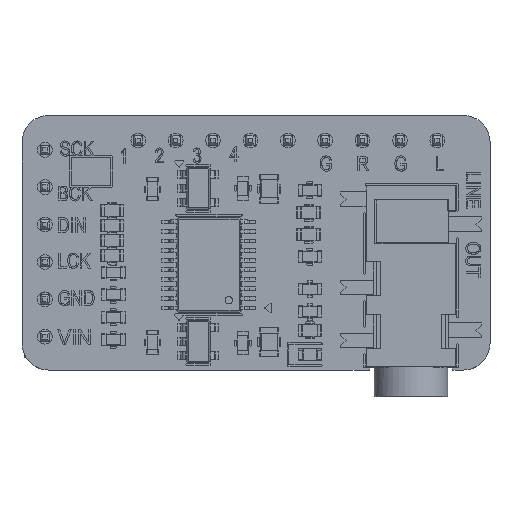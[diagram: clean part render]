
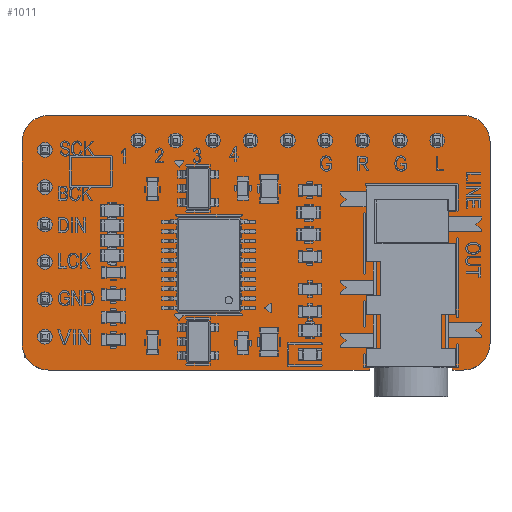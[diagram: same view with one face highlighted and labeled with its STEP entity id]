
A CAD part, top view. The second image highlights one B-rep face of the part: STEP entity #1011.
In plain terms, the highlighted planar face has unit normal (0, 0, 1).
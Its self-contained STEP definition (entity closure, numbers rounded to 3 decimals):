
#75 = VERTEX_POINT('',#76);
#76 = CARTESIAN_POINT('',(164.87,-89.635,0.));
#93 = VERTEX_POINT('',#94);
#94 = CARTESIAN_POINT('',(164.87,-103.335,0.));
#100 = EDGE_CURVE('',#75,#93,#101,.T.);
#101 = LINE('',#102,#103);
#102 = CARTESIAN_POINT('',(164.87,-89.635,0.));
#103 = VECTOR('',#104,1.);
#104 = DIRECTION('',(0.,-1.,0.));
#115 = VERTEX_POINT('',#116);
#116 = CARTESIAN_POINT('',(163.07,-87.835,0.));
#132 = EDGE_CURVE('',#115,#75,#133,.T.);
#133 = CIRCLE('',#134,1.8);
#134 = AXIS2_PLACEMENT_3D('',#135,#136,#137);
#135 = CARTESIAN_POINT('',(163.07,-89.635,0.));
#136 = DIRECTION('',(0.,0.,-1.));
#137 = DIRECTION('',(0.,1.,0.));
#158 = VERTEX_POINT('',#159);
#159 = CARTESIAN_POINT('',(163.07,-105.135,0.));
#165 = EDGE_CURVE('',#93,#158,#166,.T.);
#166 = CIRCLE('',#167,1.8);
#167 = AXIS2_PLACEMENT_3D('',#168,#169,#170);
#168 = CARTESIAN_POINT('',(163.07,-103.335,0.));
#169 = DIRECTION('',(0.,0.,-1.));
#170 = DIRECTION('',(1.,0.,0.));
#181 = VERTEX_POINT('',#182);
#182 = CARTESIAN_POINT('',(134.87,-87.835,0.));
#197 = EDGE_CURVE('',#181,#115,#198,.T.);
#198 = LINE('',#199,#200);
#199 = CARTESIAN_POINT('',(134.87,-87.835,0.));
#200 = VECTOR('',#201,1.);
#201 = DIRECTION('',(1.,0.,0.));
#221 = VERTEX_POINT('',#222);
#222 = CARTESIAN_POINT('',(162.35,-105.135,0.));
#228 = EDGE_CURVE('',#158,#221,#229,.T.);
#229 = LINE('',#230,#231);
#230 = CARTESIAN_POINT('',(163.07,-105.135,0.));
#231 = VECTOR('',#232,1.);
#232 = DIRECTION('',(-1.,0.,0.));
#243 = VERTEX_POINT('',#244);
#244 = CARTESIAN_POINT('',(133.07,-89.635,0.));
#260 = EDGE_CURVE('',#243,#181,#261,.T.);
#261 = CIRCLE('',#262,1.8);
#262 = AXIS2_PLACEMENT_3D('',#263,#264,#265);
#263 = CARTESIAN_POINT('',(134.87,-89.635,0.));
#264 = DIRECTION('',(0.,0.,-1.));
#265 = DIRECTION('',(-1.,0.,0.));
#285 = VERTEX_POINT('',#286);
#286 = CARTESIAN_POINT('',(162.,-104.135,0.));
#292 = EDGE_CURVE('',#221,#285,#293,.T.);
#293 = LINE('',#294,#295);
#294 = CARTESIAN_POINT('',(162.35,-105.135,0.));
#295 = VECTOR('',#296,1.);
#296 = DIRECTION('',(-0.33,0.944,0.));
#307 = VERTEX_POINT('',#308);
#308 = CARTESIAN_POINT('',(133.07,-103.335,0.));
#323 = EDGE_CURVE('',#307,#243,#324,.T.);
#324 = LINE('',#325,#326);
#325 = CARTESIAN_POINT('',(133.07,-103.335,0.));
#326 = VECTOR('',#327,1.);
#327 = DIRECTION('',(0.,1.,0.));
#347 = VERTEX_POINT('',#348);
#348 = CARTESIAN_POINT('',(157.,-104.135,0.));
#354 = EDGE_CURVE('',#285,#347,#355,.T.);
#355 = LINE('',#356,#357);
#356 = CARTESIAN_POINT('',(162.,-104.135,0.));
#357 = VECTOR('',#358,1.);
#358 = DIRECTION('',(-1.,0.,0.));
#369 = VERTEX_POINT('',#370);
#370 = CARTESIAN_POINT('',(134.87,-105.135,0.));
#386 = EDGE_CURVE('',#369,#307,#387,.T.);
#387 = CIRCLE('',#388,1.8);
#388 = AXIS2_PLACEMENT_3D('',#389,#390,#391);
#389 = CARTESIAN_POINT('',(134.87,-103.335,0.));
#390 = DIRECTION('',(0.,0.,-1.));
#391 = DIRECTION('',(0.,-1.,-0.));
#411 = VERTEX_POINT('',#412);
#412 = CARTESIAN_POINT('',(156.65,-105.135,0.));
#418 = EDGE_CURVE('',#347,#411,#419,.T.);
#419 = LINE('',#420,#421);
#420 = CARTESIAN_POINT('',(157.,-104.135,0.));
#421 = VECTOR('',#422,1.);
#422 = DIRECTION('',(-0.33,-0.944,0.));
#440 = EDGE_CURVE('',#411,#369,#441,.T.);
#441 = LINE('',#442,#443);
#442 = CARTESIAN_POINT('',(156.65,-105.135,0.));
#443 = VECTOR('',#444,1.);
#444 = DIRECTION('',(-1.,0.,0.));
#455 = VERTEX_POINT('',#456);
#456 = CARTESIAN_POINT('',(160.05,-101.935,0.));
#472 = EDGE_CURVE('',#455,#455,#473,.T.);
#473 = CIRCLE('',#474,0.55);
#474 = AXIS2_PLACEMENT_3D('',#475,#476,#477);
#475 = CARTESIAN_POINT('',(159.5,-101.935,0.));
#476 = DIRECTION('',(0.,0.,1.));
#477 = DIRECTION('',(1.,0.,-0.));
#488 = VERTEX_POINT('',#489);
#489 = CARTESIAN_POINT('',(135.12,-102.87,0.));
#505 = EDGE_CURVE('',#488,#488,#506,.T.);
#506 = CIRCLE('',#507,0.5);
#507 = AXIS2_PLACEMENT_3D('',#508,#509,#510);
#508 = CARTESIAN_POINT('',(134.62,-102.87,0.));
#509 = DIRECTION('',(0.,0.,1.));
#510 = DIRECTION('',(1.,0.,-0.));
#521 = VERTEX_POINT('',#522);
#522 = CARTESIAN_POINT('',(135.12,-100.33,0.));
#538 = EDGE_CURVE('',#521,#521,#539,.T.);
#539 = CIRCLE('',#540,0.5);
#540 = AXIS2_PLACEMENT_3D('',#541,#542,#543);
#541 = CARTESIAN_POINT('',(134.62,-100.33,0.));
#542 = DIRECTION('',(0.,0.,1.));
#543 = DIRECTION('',(1.,0.,-0.));
#554 = VERTEX_POINT('',#555);
#555 = CARTESIAN_POINT('',(135.12,-97.79,0.));
#571 = EDGE_CURVE('',#554,#554,#572,.T.);
#572 = CIRCLE('',#573,0.5);
#573 = AXIS2_PLACEMENT_3D('',#574,#575,#576);
#574 = CARTESIAN_POINT('',(134.62,-97.79,0.));
#575 = DIRECTION('',(0.,0.,1.));
#576 = DIRECTION('',(1.,0.,-0.));
#587 = VERTEX_POINT('',#588);
#588 = CARTESIAN_POINT('',(160.05,-95.935,0.));
#604 = EDGE_CURVE('',#587,#587,#605,.T.);
#605 = CIRCLE('',#606,0.55);
#606 = AXIS2_PLACEMENT_3D('',#607,#608,#609);
#607 = CARTESIAN_POINT('',(159.5,-95.935,0.));
#608 = DIRECTION('',(0.,0.,1.));
#609 = DIRECTION('',(1.,0.,-0.));
#620 = VERTEX_POINT('',#621);
#621 = CARTESIAN_POINT('',(161.79,-89.535,0.));
#637 = EDGE_CURVE('',#620,#620,#638,.T.);
#638 = CIRCLE('',#639,0.5);
#639 = AXIS2_PLACEMENT_3D('',#640,#641,#642);
#640 = CARTESIAN_POINT('',(161.29,-89.535,0.));
#641 = DIRECTION('',(0.,0.,1.));
#642 = DIRECTION('',(1.,0.,-0.));
#653 = VERTEX_POINT('',#654);
#654 = CARTESIAN_POINT('',(159.25,-89.535,0.));
#670 = EDGE_CURVE('',#653,#653,#671,.T.);
#671 = CIRCLE('',#672,0.5);
#672 = AXIS2_PLACEMENT_3D('',#673,#674,#675);
#673 = CARTESIAN_POINT('',(158.75,-89.535,0.));
#674 = DIRECTION('',(0.,0.,1.));
#675 = DIRECTION('',(1.,0.,-0.));
#686 = VERTEX_POINT('',#687);
#687 = CARTESIAN_POINT('',(156.71,-89.535,0.));
#703 = EDGE_CURVE('',#686,#686,#704,.T.);
#704 = CIRCLE('',#705,0.5);
#705 = AXIS2_PLACEMENT_3D('',#706,#707,#708);
#706 = CARTESIAN_POINT('',(156.21,-89.535,0.));
#707 = DIRECTION('',(0.,0.,1.));
#708 = DIRECTION('',(1.,0.,-0.));
#719 = VERTEX_POINT('',#720);
#720 = CARTESIAN_POINT('',(154.17,-89.535,0.));
#736 = EDGE_CURVE('',#719,#719,#737,.T.);
#737 = CIRCLE('',#738,0.5);
#738 = AXIS2_PLACEMENT_3D('',#739,#740,#741);
#739 = CARTESIAN_POINT('',(153.67,-89.535,0.));
#740 = DIRECTION('',(0.,0.,1.));
#741 = DIRECTION('',(1.,0.,-0.));
#752 = VERTEX_POINT('',#753);
#753 = CARTESIAN_POINT('',(151.63,-89.535,0.));
#769 = EDGE_CURVE('',#752,#752,#770,.T.);
#770 = CIRCLE('',#771,0.5);
#771 = AXIS2_PLACEMENT_3D('',#772,#773,#774);
#772 = CARTESIAN_POINT('',(151.13,-89.535,0.));
#773 = DIRECTION('',(0.,0.,1.));
#774 = DIRECTION('',(1.,0.,-0.));
#785 = VERTEX_POINT('',#786);
#786 = CARTESIAN_POINT('',(149.09,-89.535,0.));
#802 = EDGE_CURVE('',#785,#785,#803,.T.);
#803 = CIRCLE('',#804,0.5);
#804 = AXIS2_PLACEMENT_3D('',#805,#806,#807);
#805 = CARTESIAN_POINT('',(148.59,-89.535,0.));
#806 = DIRECTION('',(0.,0.,1.));
#807 = DIRECTION('',(1.,0.,-0.));
#818 = VERTEX_POINT('',#819);
#819 = CARTESIAN_POINT('',(135.12,-95.25,0.));
#835 = EDGE_CURVE('',#818,#818,#836,.T.);
#836 = CIRCLE('',#837,0.5);
#837 = AXIS2_PLACEMENT_3D('',#838,#839,#840);
#838 = CARTESIAN_POINT('',(134.62,-95.25,0.));
#839 = DIRECTION('',(0.,0.,1.));
#840 = DIRECTION('',(1.,0.,-0.));
#851 = VERTEX_POINT('',#852);
#852 = CARTESIAN_POINT('',(135.12,-92.71,0.));
#868 = EDGE_CURVE('',#851,#851,#869,.T.);
#869 = CIRCLE('',#870,0.5);
#870 = AXIS2_PLACEMENT_3D('',#871,#872,#873);
#871 = CARTESIAN_POINT('',(134.62,-92.71,0.));
#872 = DIRECTION('',(0.,0.,1.));
#873 = DIRECTION('',(1.,0.,-0.));
#884 = VERTEX_POINT('',#885);
#885 = CARTESIAN_POINT('',(146.55,-89.535,0.));
#901 = EDGE_CURVE('',#884,#884,#902,.T.);
#902 = CIRCLE('',#903,0.5);
#903 = AXIS2_PLACEMENT_3D('',#904,#905,#906);
#904 = CARTESIAN_POINT('',(146.05,-89.535,0.));
#905 = DIRECTION('',(0.,0.,1.));
#906 = DIRECTION('',(1.,0.,-0.));
#917 = VERTEX_POINT('',#918);
#918 = CARTESIAN_POINT('',(144.01,-89.535,0.));
#934 = EDGE_CURVE('',#917,#917,#935,.T.);
#935 = CIRCLE('',#936,0.5);
#936 = AXIS2_PLACEMENT_3D('',#937,#938,#939);
#937 = CARTESIAN_POINT('',(143.51,-89.535,0.));
#938 = DIRECTION('',(0.,0.,1.));
#939 = DIRECTION('',(1.,0.,-0.));
#950 = VERTEX_POINT('',#951);
#951 = CARTESIAN_POINT('',(141.47,-89.535,0.));
#967 = EDGE_CURVE('',#950,#950,#968,.T.);
#968 = CIRCLE('',#969,0.5);
#969 = AXIS2_PLACEMENT_3D('',#970,#971,#972);
#970 = CARTESIAN_POINT('',(140.97,-89.535,0.));
#971 = DIRECTION('',(0.,0.,1.));
#972 = DIRECTION('',(1.,0.,-0.));
#983 = VERTEX_POINT('',#984);
#984 = CARTESIAN_POINT('',(135.12,-90.17,0.));
#1000 = EDGE_CURVE('',#983,#983,#1001,.T.);
#1001 = CIRCLE('',#1002,0.5);
#1002 = AXIS2_PLACEMENT_3D('',#1003,#1004,#1005);
#1003 = CARTESIAN_POINT('',(134.62,-90.17,0.));
#1004 = DIRECTION('',(0.,0.,1.));
#1005 = DIRECTION('',(1.,0.,-0.));
#1011 = ADVANCED_FACE('',(#1012,#1026,#1029,#1032,#1035,#1038,#1041,
    #1044,#1047,#1050,#1053,#1056,#1059,#1062,#1065,#1068,#1071,#1074),
  #1077,.F.);
#1012 = FACE_BOUND('',#1013,.F.);
#1013 = EDGE_LOOP('',(#1014,#1015,#1016,#1017,#1018,#1019,#1020,#1021,
    #1022,#1023,#1024,#1025));
#1014 = ORIENTED_EDGE('',*,*,#100,.T.);
#1015 = ORIENTED_EDGE('',*,*,#165,.T.);
#1016 = ORIENTED_EDGE('',*,*,#228,.T.);
#1017 = ORIENTED_EDGE('',*,*,#292,.T.);
#1018 = ORIENTED_EDGE('',*,*,#354,.T.);
#1019 = ORIENTED_EDGE('',*,*,#418,.T.);
#1020 = ORIENTED_EDGE('',*,*,#440,.T.);
#1021 = ORIENTED_EDGE('',*,*,#386,.T.);
#1022 = ORIENTED_EDGE('',*,*,#323,.T.);
#1023 = ORIENTED_EDGE('',*,*,#260,.T.);
#1024 = ORIENTED_EDGE('',*,*,#197,.T.);
#1025 = ORIENTED_EDGE('',*,*,#132,.T.);
#1026 = FACE_BOUND('',#1027,.F.);
#1027 = EDGE_LOOP('',(#1028));
#1028 = ORIENTED_EDGE('',*,*,#472,.T.);
#1029 = FACE_BOUND('',#1030,.F.);
#1030 = EDGE_LOOP('',(#1031));
#1031 = ORIENTED_EDGE('',*,*,#505,.T.);
#1032 = FACE_BOUND('',#1033,.F.);
#1033 = EDGE_LOOP('',(#1034));
#1034 = ORIENTED_EDGE('',*,*,#538,.T.);
#1035 = FACE_BOUND('',#1036,.F.);
#1036 = EDGE_LOOP('',(#1037));
#1037 = ORIENTED_EDGE('',*,*,#571,.T.);
#1038 = FACE_BOUND('',#1039,.F.);
#1039 = EDGE_LOOP('',(#1040));
#1040 = ORIENTED_EDGE('',*,*,#604,.T.);
#1041 = FACE_BOUND('',#1042,.F.);
#1042 = EDGE_LOOP('',(#1043));
#1043 = ORIENTED_EDGE('',*,*,#637,.T.);
#1044 = FACE_BOUND('',#1045,.F.);
#1045 = EDGE_LOOP('',(#1046));
#1046 = ORIENTED_EDGE('',*,*,#670,.T.);
#1047 = FACE_BOUND('',#1048,.F.);
#1048 = EDGE_LOOP('',(#1049));
#1049 = ORIENTED_EDGE('',*,*,#703,.T.);
#1050 = FACE_BOUND('',#1051,.F.);
#1051 = EDGE_LOOP('',(#1052));
#1052 = ORIENTED_EDGE('',*,*,#736,.T.);
#1053 = FACE_BOUND('',#1054,.F.);
#1054 = EDGE_LOOP('',(#1055));
#1055 = ORIENTED_EDGE('',*,*,#769,.T.);
#1056 = FACE_BOUND('',#1057,.F.);
#1057 = EDGE_LOOP('',(#1058));
#1058 = ORIENTED_EDGE('',*,*,#802,.T.);
#1059 = FACE_BOUND('',#1060,.F.);
#1060 = EDGE_LOOP('',(#1061));
#1061 = ORIENTED_EDGE('',*,*,#835,.T.);
#1062 = FACE_BOUND('',#1063,.F.);
#1063 = EDGE_LOOP('',(#1064));
#1064 = ORIENTED_EDGE('',*,*,#868,.T.);
#1065 = FACE_BOUND('',#1066,.F.);
#1066 = EDGE_LOOP('',(#1067));
#1067 = ORIENTED_EDGE('',*,*,#901,.T.);
#1068 = FACE_BOUND('',#1069,.F.);
#1069 = EDGE_LOOP('',(#1070));
#1070 = ORIENTED_EDGE('',*,*,#934,.T.);
#1071 = FACE_BOUND('',#1072,.F.);
#1072 = EDGE_LOOP('',(#1073));
#1073 = ORIENTED_EDGE('',*,*,#967,.T.);
#1074 = FACE_BOUND('',#1075,.F.);
#1075 = EDGE_LOOP('',(#1076));
#1076 = ORIENTED_EDGE('',*,*,#1000,.T.);
#1077 = PLANE('',#1078);
#1078 = AXIS2_PLACEMENT_3D('',#1079,#1080,#1081);
#1079 = CARTESIAN_POINT('',(149.125,-96.549,0.));
#1080 = DIRECTION('',(-0.,-0.,-1.));
#1081 = DIRECTION('',(-1.,0.,0.));
